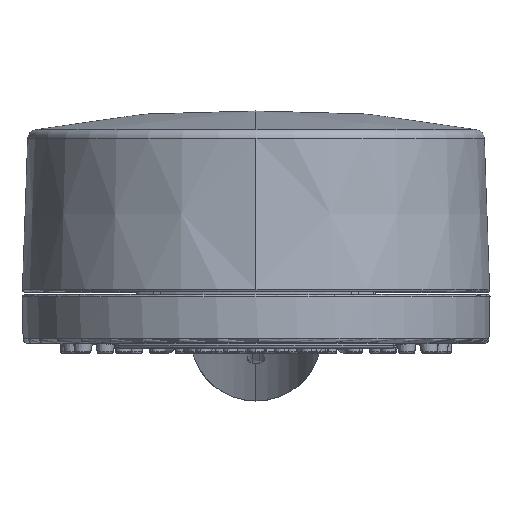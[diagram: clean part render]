
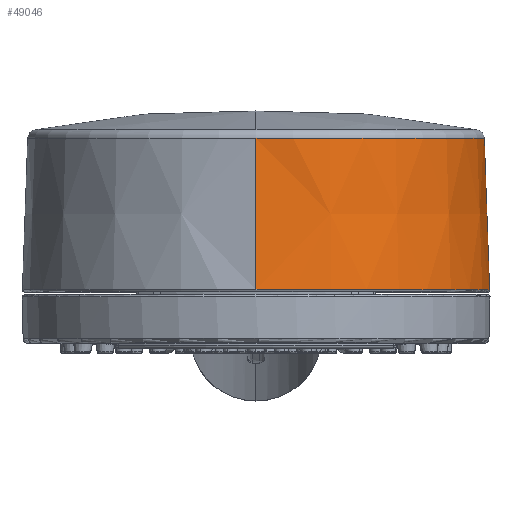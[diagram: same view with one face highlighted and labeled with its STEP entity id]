
A CAD part, top view. The second image highlights one B-rep face of the part: STEP entity #49046.
In plain terms, the highlighted conical face has half-angle 2 degrees and reference radius 49.418 mm.
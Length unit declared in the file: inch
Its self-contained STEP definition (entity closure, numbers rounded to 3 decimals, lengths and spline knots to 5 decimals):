
#7653 = VERTEX_POINT ( 'NONE', #43290 ) ;
#9847 = DIRECTION ( 'NONE',  ( -0.75, 0., -0.662 ) ) ;
#12812 = FACE_OUTER_BOUND ( 'NONE', #12987, .T. ) ;
#12987 = EDGE_LOOP ( 'NONE', ( #42149, #104951, #76730, #166811 ) ) ;
#14174 = CARTESIAN_POINT ( 'NONE',  ( 1.44177, 1.1279, -1.27311 ) ) ;
#15131 = EDGE_CURVE ( 'NONE', #184097, #7653, #182671, .T. ) ;
#16280 = LINE ( 'NONE', #73519, #78861 ) ;
#19368 = VERTEX_POINT ( 'NONE', #14174 ) ;
#24391 = CARTESIAN_POINT ( 'NONE',  ( 0., 1.1279, 0. ) ) ;
#26734 = CARTESIAN_POINT ( 'NONE',  ( 0., 0.49244, 1.9456 ) ) ;
#28693 = CARTESIAN_POINT ( 'NONE',  ( 0., 1.1279, 1.92341 ) ) ;
#30575 = VECTOR ( 'NONE', #128128, 39.37008 ) ;
#40814 = LINE ( 'NONE', #26734, #30575 ) ;
#42149 = ORIENTED_EDGE ( 'NONE', *, *, #52111, .T. ) ;
#43290 = CARTESIAN_POINT ( 'NONE',  ( 1.47504, -0.14301, -1.30248 ) ) ;
#49046 = ADVANCED_FACE ( 'NONE', ( #12812 ), #147428, .T. ) ;
#52111 = EDGE_CURVE ( 'NONE', #19368, #174001, #90657, .T. ) ;
#53656 = AXIS2_PLACEMENT_3D ( 'NONE', #124397, #65228, #9847 ) ;
#65228 = DIRECTION ( 'NONE',  ( 0., 1., 0. ) ) ;
#66607 = DIRECTION ( 'NONE',  ( 0.75, 0., -0.662 ) ) ;
#70063 = DIRECTION ( 'NONE',  ( 0., 0., 1. ) ) ;
#73519 = CARTESIAN_POINT ( 'NONE',  ( 1.47504, -0.14301, -1.30248 ) ) ;
#76730 = ORIENTED_EDGE ( 'NONE', *, *, #15131, .T. ) ;
#78861 = VECTOR ( 'NONE', #162719, 39.37008 ) ;
#84121 = CARTESIAN_POINT ( 'NONE',  ( 0., 0.49244, 0. ) ) ;
#90657 = CIRCLE ( 'NONE', #96717, 1.92341 ) ;
#96717 = AXIS2_PLACEMENT_3D ( 'NONE', #24391, #154002, #66607 ) ;
#99410 = AXIS2_PLACEMENT_3D ( 'NONE', #84121, #141478, #70063 ) ;
#104951 = ORIENTED_EDGE ( 'NONE', *, *, #142090, .T. ) ;
#124397 = CARTESIAN_POINT ( 'NONE',  ( 0., -0.14301, 0. ) ) ;
#128128 = DIRECTION ( 'NONE',  ( 0., -0.999, 0.035 ) ) ;
#141478 = DIRECTION ( 'NONE',  ( 0., -1., 0. ) ) ;
#142090 = EDGE_CURVE ( 'NONE', #174001, #184097, #40814, .T. ) ;
#147428 = CONICAL_SURFACE ( 'NONE', #99410, 1.9456, 0.035 ) ;
#150267 = CARTESIAN_POINT ( 'NONE',  ( 0., -0.14301, 1.96779 ) ) ;
#154002 = DIRECTION ( 'NONE',  ( 0., -1., 0. ) ) ;
#162719 = DIRECTION ( 'NONE',  ( -0.026, 0.999, 0.023 ) ) ;
#166811 = ORIENTED_EDGE ( 'NONE', *, *, #176131, .T. ) ;
#174001 = VERTEX_POINT ( 'NONE', #28693 ) ;
#176131 = EDGE_CURVE ( 'NONE', #7653, #19368, #16280, .T. ) ;
#182671 = CIRCLE ( 'NONE', #53656, 1.96779 ) ;
#184097 = VERTEX_POINT ( 'NONE', #150267 ) ;
